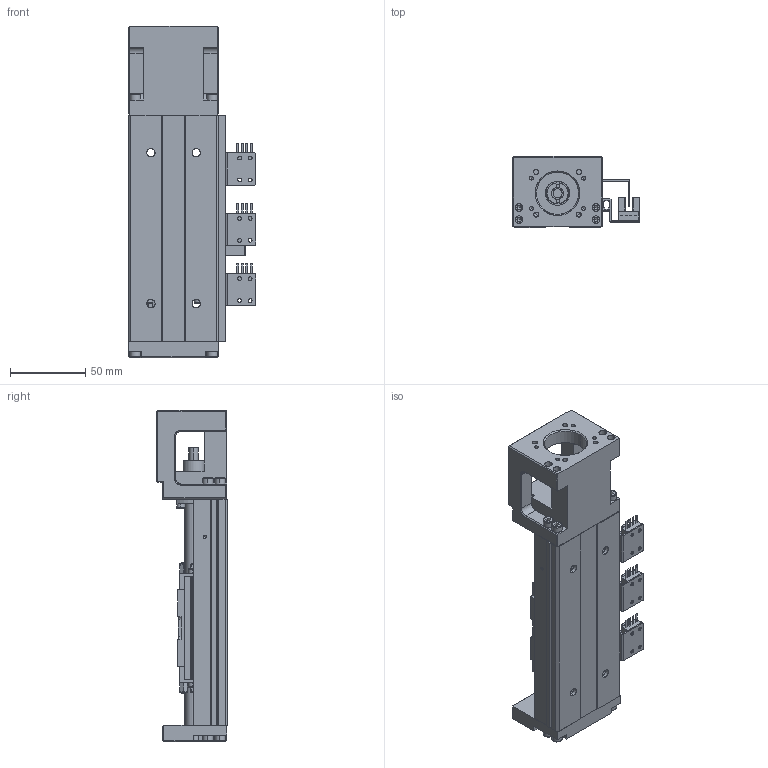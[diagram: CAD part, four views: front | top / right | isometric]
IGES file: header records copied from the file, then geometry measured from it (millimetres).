
Start section: SolidWorks IGES file using analytic representation for surfaces
Bounding box: 84.5 x 47 x 220 mm (x, y, z)
Surface area: 115034 mm2 (no closed solid volume)
Topology: 0 solids, 0 shells, 1248 faces, 14917 edges, 14808 vertices
Faces by surface type: bspline 730, revolution 518
